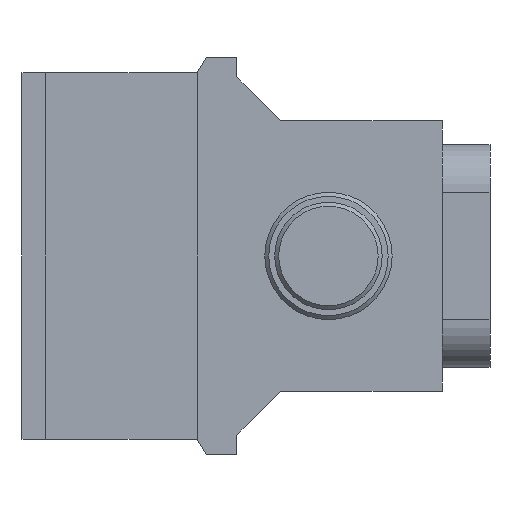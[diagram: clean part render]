
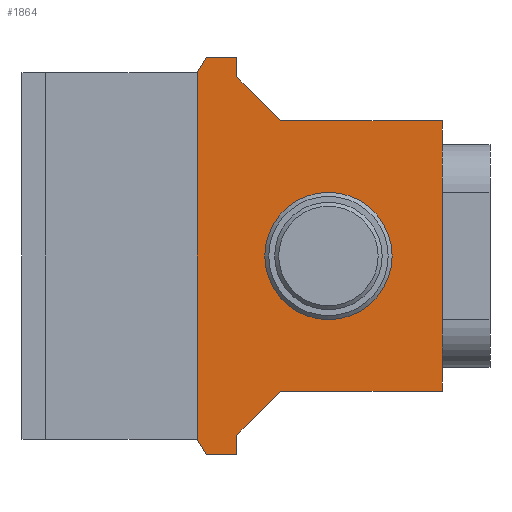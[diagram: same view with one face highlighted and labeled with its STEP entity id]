
A CAD part, left-side view. The second image highlights one B-rep face of the part: STEP entity #1864.
In plain terms, the highlighted planar face has unit normal (-1, 0, 0).
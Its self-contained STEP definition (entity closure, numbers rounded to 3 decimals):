
#20 = ORIENTED_EDGE ( 'NONE', *, *, #1834, .F. ) ;
#54 = FACE_BOUND ( 'NONE', #334, .T. ) ;
#68 = LINE ( 'NONE', #226, #2620 ) ;
#123 = LINE ( 'NONE', #1982, #1797 ) ;
#126 = CARTESIAN_POINT ( 'NONE',  ( -11., 38., 22.5 ) ) ;
#144 = CARTESIAN_POINT ( 'NONE',  ( -11., 26.5, 8. ) ) ;
#151 = VERTEX_POINT ( 'NONE', #2204 ) ;
#158 = CARTESIAN_POINT ( 'NONE',  ( -11., 12.2, -17. ) ) ;
#183 = EDGE_CURVE ( 'NONE', #1846, #2254, #798, .T. ) ;
#226 = CARTESIAN_POINT ( 'NONE',  ( -11., 12.2, -17. ) ) ;
#247 = CARTESIAN_POINT ( 'NONE',  ( -11., 12.2, 17. ) ) ;
#279 = CARTESIAN_POINT ( 'NONE',  ( -11., 43., -23. ) ) ;
#304 = CARTESIAN_POINT ( 'NONE',  ( -11., 26.5, 0. ) ) ;
#308 = VERTEX_POINT ( 'NONE', #279 ) ;
#321 = ORIENTED_EDGE ( 'NONE', *, *, #183, .F. ) ;
#333 = DIRECTION ( 'NONE',  ( 0., -1., 0. ) ) ;
#334 = EDGE_LOOP ( 'NONE', ( #925 ) ) ;
#335 = CARTESIAN_POINT ( 'NONE',  ( -11., 38., -25. ) ) ;
#340 = CARTESIAN_POINT ( 'NONE',  ( -11., 38., -22.5 ) ) ;
#352 = VERTEX_POINT ( 'NONE', #462 ) ;
#360 = AXIS2_PLACEMENT_3D ( 'NONE', #304, #2432, #509 ) ;
#374 = LINE ( 'NONE', #158, #1023 ) ;
#380 = ORIENTED_EDGE ( 'NONE', *, *, #2136, .F. ) ;
#418 = CARTESIAN_POINT ( 'NONE',  ( -11., 38., 23. ) ) ;
#459 = FACE_OUTER_BOUND ( 'NONE', #762, .T. ) ;
#462 = CARTESIAN_POINT ( 'NONE',  ( -11., 41.845, -25. ) ) ;
#482 = CARTESIAN_POINT ( 'NONE',  ( -11., 32.5, -17. ) ) ;
#491 = VECTOR ( 'NONE', #590, 1000. ) ;
#495 = EDGE_CURVE ( 'NONE', #1307, #2144, #1007, .T. ) ;
#509 = DIRECTION ( 'NONE',  ( 0., 0., 1. ) ) ;
#550 = ORIENTED_EDGE ( 'NONE', *, *, #2488, .F. ) ;
#564 = ORIENTED_EDGE ( 'NONE', *, *, #2455, .F. ) ;
#588 = EDGE_CURVE ( 'NONE', #2144, #911, #700, .T. ) ;
#590 = DIRECTION ( 'NONE',  ( 0., 0., -1. ) ) ;
#611 = CARTESIAN_POINT ( 'NONE',  ( -11., 12.2, 14. ) ) ;
#654 = ORIENTED_EDGE ( 'NONE', *, *, #2246, .F. ) ;
#678 = DIRECTION ( 'NONE',  ( 0., 1., 0. ) ) ;
#683 = VERTEX_POINT ( 'NONE', #340 ) ;
#697 = DIRECTION ( 'NONE',  ( 0., -1., 0. ) ) ;
#700 = LINE ( 'NONE', #2371, #1582 ) ;
#762 = EDGE_LOOP ( 'NONE', ( #1629, #2156, #2285, #20, #654, #1558, #564, #380, #1770, #1568, #550, #321, #1611, #1772 ) ) ;
#798 = LINE ( 'NONE', #956, #1275 ) ;
#911 = VERTEX_POINT ( 'NONE', #2420 ) ;
#914 = DIRECTION ( 'NONE',  ( 0., 0., -1. ) ) ;
#924 = DIRECTION ( 'NONE',  ( 0., 0., 1. ) ) ;
#925 = ORIENTED_EDGE ( 'NONE', *, *, #963, .T. ) ;
#954 = LINE ( 'NONE', #1604, #2671 ) ;
#956 = CARTESIAN_POINT ( 'NONE',  ( -11., 12.2, -17. ) ) ;
#963 = EDGE_CURVE ( 'NONE', #1798, #1798, #1795, .T. ) ;
#997 = LINE ( 'NONE', #2195, #2452 ) ;
#1007 = LINE ( 'NONE', #418, #491 ) ;
#1023 = VECTOR ( 'NONE', #1788, 1000. ) ;
#1024 = LINE ( 'NONE', #1649, #2547 ) ;
#1080 = CARTESIAN_POINT ( 'NONE',  ( -11., 43., -23. ) ) ;
#1097 = DIRECTION ( 'NONE',  ( 0., 0.5, 0.866 ) ) ;
#1122 = CARTESIAN_POINT ( 'NONE',  ( -11., 38., 25. ) ) ;
#1183 = DIRECTION ( 'NONE',  ( 0., 1., 0. ) ) ;
#1209 = DIRECTION ( 'NONE',  ( 0., 0., -1. ) ) ;
#1220 = EDGE_CURVE ( 'NONE', #911, #2095, #123, .T. ) ;
#1275 = VECTOR ( 'NONE', #1209, 1000. ) ;
#1307 = VERTEX_POINT ( 'NONE', #2020 ) ;
#1313 = EDGE_CURVE ( 'NONE', #308, #1697, #997, .T. ) ;
#1317 = LINE ( 'NONE', #1486, #1931 ) ;
#1362 = EDGE_CURVE ( 'NONE', #1990, #1846, #374, .T. ) ;
#1385 = LINE ( 'NONE', #335, #1967 ) ;
#1386 = EDGE_CURVE ( 'NONE', #1865, #683, #1024, .T. ) ;
#1477 = DIRECTION ( 'NONE',  ( 0., 0.707, -0.707 ) ) ;
#1486 = CARTESIAN_POINT ( 'NONE',  ( -11., 32.5, -17. ) ) ;
#1558 = ORIENTED_EDGE ( 'NONE', *, *, #1313, .F. ) ;
#1568 = ORIENTED_EDGE ( 'NONE', *, *, #1386, .F. ) ;
#1574 = VERTEX_POINT ( 'NONE', #1959 ) ;
#1582 = VECTOR ( 'NONE', #2346, 1000. ) ;
#1595 = DIRECTION ( 'NONE',  ( 0., 0., -1. ) ) ;
#1604 = CARTESIAN_POINT ( 'NONE',  ( -11., 38., -22.5 ) ) ;
#1611 = ORIENTED_EDGE ( 'NONE', *, *, #1362, .F. ) ;
#1629 = ORIENTED_EDGE ( 'NONE', *, *, #1220, .F. ) ;
#1649 = CARTESIAN_POINT ( 'NONE',  ( -11., 32.5, -17. ) ) ;
#1685 = EDGE_CURVE ( 'NONE', #683, #151, #954, .T. ) ;
#1697 = VERTEX_POINT ( 'NONE', #1873 ) ;
#1741 = PLANE ( 'NONE',  #2578 ) ;
#1770 = ORIENTED_EDGE ( 'NONE', *, *, #1685, .F. ) ;
#1772 = ORIENTED_EDGE ( 'NONE', *, *, #1885, .F. ) ;
#1788 = DIRECTION ( 'NONE',  ( 0., 0., -1. ) ) ;
#1795 = CIRCLE ( 'NONE', #360, 8. ) ;
#1797 = VECTOR ( 'NONE', #333, 1000. ) ;
#1798 = VERTEX_POINT ( 'NONE', #144 ) ;
#1815 = DIRECTION ( 'NONE',  ( 0., 0., 1. ) ) ;
#1834 = EDGE_CURVE ( 'NONE', #1574, #1307, #2327, .T. ) ;
#1846 = VERTEX_POINT ( 'NONE', #1934 ) ;
#1864 = ADVANCED_FACE ( 'NONE', ( #54, #459 ), #1741, .T. ) ;
#1865 = VERTEX_POINT ( 'NONE', #482 ) ;
#1873 = CARTESIAN_POINT ( 'NONE',  ( -11., 43., 23. ) ) ;
#1885 = EDGE_CURVE ( 'NONE', #2095, #1990, #68, .T. ) ;
#1908 = CARTESIAN_POINT ( 'NONE',  ( -11., 43., 23. ) ) ;
#1931 = VECTOR ( 'NONE', #678, 1000. ) ;
#1934 = CARTESIAN_POINT ( 'NONE',  ( -11., 12.2, -14. ) ) ;
#1935 = LINE ( 'NONE', #1080, #2676 ) ;
#1939 = LINE ( 'NONE', #1908, #1970 ) ;
#1959 = CARTESIAN_POINT ( 'NONE',  ( -11., 41.845, 25. ) ) ;
#1967 = VECTOR ( 'NONE', #1183, 1000. ) ;
#1970 = VECTOR ( 'NONE', #2562, 1000. ) ;
#1982 = CARTESIAN_POINT ( 'NONE',  ( -11., 12.2, 17. ) ) ;
#1990 = VERTEX_POINT ( 'NONE', #611 ) ;
#2020 = CARTESIAN_POINT ( 'NONE',  ( -11., 38., 25. ) ) ;
#2095 = VERTEX_POINT ( 'NONE', #247 ) ;
#2096 = VECTOR ( 'NONE', #697, 1000. ) ;
#2099 = CARTESIAN_POINT ( 'NONE',  ( -11., 38., 17. ) ) ;
#2126 = DIRECTION ( 'NONE',  ( -1., 0., 0. ) ) ;
#2136 = EDGE_CURVE ( 'NONE', #151, #352, #1385, .T. ) ;
#2144 = VERTEX_POINT ( 'NONE', #126 ) ;
#2156 = ORIENTED_EDGE ( 'NONE', *, *, #588, .F. ) ;
#2195 = CARTESIAN_POINT ( 'NONE',  ( -11., 43., 23. ) ) ;
#2204 = CARTESIAN_POINT ( 'NONE',  ( -11., 38., -25. ) ) ;
#2246 = EDGE_CURVE ( 'NONE', #1697, #1574, #1939, .T. ) ;
#2254 = VERTEX_POINT ( 'NONE', #2567 ) ;
#2285 = ORIENTED_EDGE ( 'NONE', *, *, #495, .F. ) ;
#2327 = LINE ( 'NONE', #1122, #2096 ) ;
#2346 = DIRECTION ( 'NONE',  ( 0., -0.707, -0.707 ) ) ;
#2371 = CARTESIAN_POINT ( 'NONE',  ( -11., 38., 22.5 ) ) ;
#2420 = CARTESIAN_POINT ( 'NONE',  ( -11., 32.5, 17. ) ) ;
#2432 = DIRECTION ( 'NONE',  ( 1., 0., 0. ) ) ;
#2452 = VECTOR ( 'NONE', #1815, 1000. ) ;
#2455 = EDGE_CURVE ( 'NONE', #352, #308, #1935, .T. ) ;
#2488 = EDGE_CURVE ( 'NONE', #2254, #1865, #1317, .T. ) ;
#2547 = VECTOR ( 'NONE', #1477, 1000. ) ;
#2562 = DIRECTION ( 'NONE',  ( 0., -0.5, 0.866 ) ) ;
#2567 = CARTESIAN_POINT ( 'NONE',  ( -11., 12.2, -17. ) ) ;
#2578 = AXIS2_PLACEMENT_3D ( 'NONE', #2099, #2126, #924 ) ;
#2620 = VECTOR ( 'NONE', #914, 1000. ) ;
#2671 = VECTOR ( 'NONE', #1595, 1000. ) ;
#2676 = VECTOR ( 'NONE', #1097, 1000. ) ;
